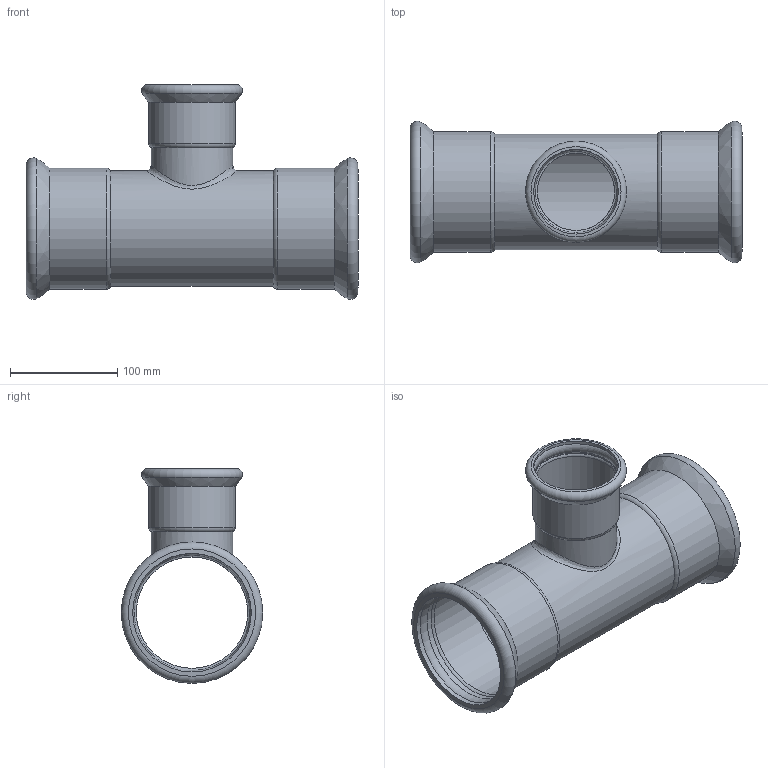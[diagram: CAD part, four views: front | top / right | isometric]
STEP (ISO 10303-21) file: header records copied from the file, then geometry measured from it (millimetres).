
FILE_DESCRIPTION(/* description */ ('TEE RIDOTTO 108-76,1-108'),/* implementation_level */ '2;1');
FILE_NAME(/* name */ 'R:\Disegni3D_Area_Manager\Inoxpres.step\192_INOXPRES\192108076_Inoxpres.stp',/* time_stamp */ '2022-10-12T11:14:12+02:00',/* author */ ('Vault'),/* organization */ ('Raccorderie metalliche s.p.a. '),/* preprocessor_version */ 'ST-DEVELOPER v18.1',/* originating_system */ 'Autodesk Inventor 2020',/* authorisation */ 'Raccorderie metalliche s.p.a. ');
FILE_SCHEMA (('AUTOMOTIVE_DESIGN { 1 0 10303 214 3 1 1 }'));
Length unit declared in the file: millimetre
Products named in the file (1): 192108076_Inoxpres
Bounding box: 310 x 132.09 x 200.54 mm (x, y, z)
Volume: 367481.2 mm3; surface area: 259581.5 mm2
Topology: 1 solids, 1 shells, 40 faces, 146 edges, 106 vertices
Faces by surface type: cylinder 16, torus 15, bspline 5, cone 4
Full cylindrical faces by diameter (mm): 72.1 x1, 76.1 x1, 76.7 x1, 79 x2, 80.7 x1, 104 x1, 108 x1, 108.8 x2, 110.7 x4, 112.8 x2
Entity records: 2401 total; most frequent: CARTESIAN_POINT 983, DIRECTION 334, ORIENTED_EDGE 296, AXIS2_PLACEMENT_3D 156, EDGE_CURVE 148, CIRCLE 120, VERTEX_POINT 108, EDGE_LOOP 42
